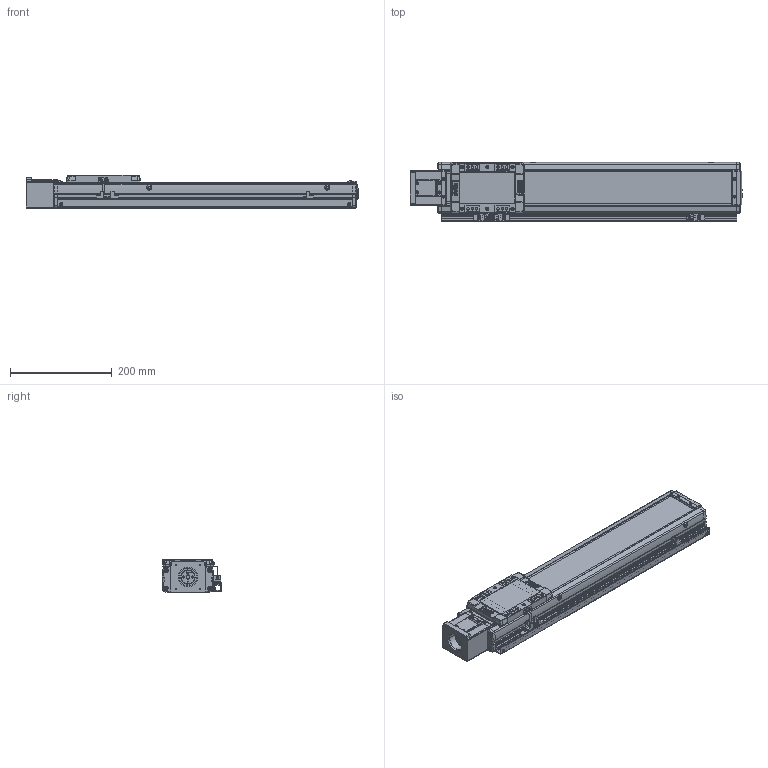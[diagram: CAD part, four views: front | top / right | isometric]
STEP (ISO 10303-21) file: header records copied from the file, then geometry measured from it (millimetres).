
FILE_DESCRIPTION(('STEP AP214'),'1');
FILE_NAME('Z:/Web/3D/SAN100/SAN100 양산용 (STEP)/SAN100ㅁㅁ-400S+3SR.stp','2013-04-25T07:38:44',(' '),(' '),'Spatial InterOp 3D',' ',' ');
FILE_SCHEMA(('automotive_design'));
Length unit declared in the file: millimetre
Products named in the file (58): EE-SX674; SBK-SX674-352; 스크루 : Round - M3.0 x 6.0; M3.0 x 6.0; SRL-16x17-380L; SGD-SAN100; MTHZ-SAN100-S56A; SDA26C-8-6.35; SSFX-SAN65; CPLCV-SAN65; 스크루 : Round - M4.0 x 10.0; FRCV-SAN100; SUS COVER; SFX-SAN100; RRCV-SAN100; FRBL-SAN100; SLBL-SAN100; SLCV-SAN100; 스크루 : Countersunk - M3.0 x 6.0; BASE; 스크루 : Round - M5.0 x 6.0
Bounding box: 652.5 x 116 x 66 mm (x, y, z)
Volume: 1924415.4 mm3; surface area: 547434.4 mm2
Topology: 58 solids, 59 shells, 2905 faces, 7634 edges, 4959 vertices
Faces by surface type: plane 1494, cylinder 1033, cone 241, sphere 72, torus 45, bspline 20
Entity records: 116096 total; most frequent: CARTESIAN_POINT 17982, DIRECTION 16118, ORIENTED_EDGE 15096, EDGE_CURVE 7548, AXIS2_PLACEMENT_3D 5810, VERTEX_POINT 4959, LINE 4498, VECTOR 4498
